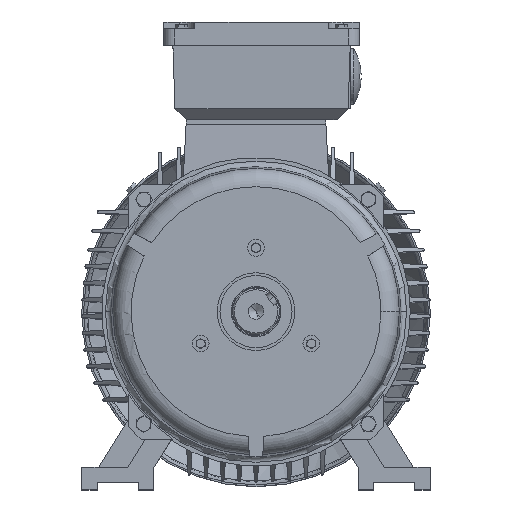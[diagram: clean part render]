
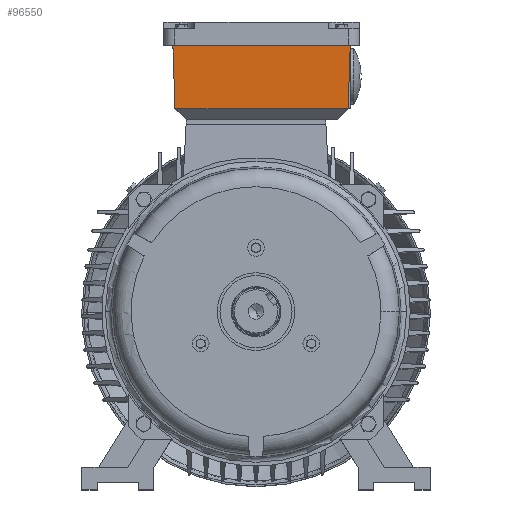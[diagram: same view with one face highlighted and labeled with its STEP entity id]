
A CAD part, top view. The second image highlights one B-rep face of the part: STEP entity #96550.
In plain terms, the highlighted planar face has unit normal (0, -0.033, 1) as drawn and (-0.999, 0, -0.033) by its records, which use the part's own axes.
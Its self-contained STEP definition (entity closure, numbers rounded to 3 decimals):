
#915 = CARTESIAN_POINT ( 'NONE',  ( -72.594, 0., -2.38 ) ) ;
#922 = PLANE ( 'NONE',  #12358 ) ;
#924 = DIRECTION ( 'NONE',  ( -0.999, 0., -0.033 ) ) ;
#925 = DIRECTION ( 'NONE',  ( -0.033, 0., 0.999 ) ) ;
#1542 = ORIENTED_EDGE ( 'NONE', *, *, #90431, .T. ) ;
#1545 = ORIENTED_EDGE ( 'NONE', *, *, #90442, .F. ) ;
#1557 = ORIENTED_EDGE ( 'NONE', *, *, #90472, .T. ) ;
#1559 = ORIENTED_EDGE ( 'NONE', *, *, #90493, .F. ) ;
#3138 = VERTEX_POINT ( 'NONE', #40798 ) ;
#3221 = VERTEX_POINT ( 'NONE', #40657 ) ;
#12358 = AXIS2_PLACEMENT_3D ( 'NONE', #915, #924, #925 ) ;
#14756 = FACE_OUTER_BOUND ( 'NONE', #77059, .T. ) ;
#40657 = CARTESIAN_POINT ( 'NONE',  ( -75., 80., 71. ) ) ;
#40798 = CARTESIAN_POINT ( 'NONE',  ( -73., 78., 10. ) ) ;
#48454 = DIRECTION ( 'NONE',  ( 0.033, -0.033, -0.999 ) ) ;
#48455 = CARTESIAN_POINT ( 'NONE',  ( -75., 80., 71. ) ) ;
#48845 = CARTESIAN_POINT ( 'NONE',  ( -75., 80., 71. ) ) ;
#48846 = DIRECTION ( 'NONE',  ( 0., -1., 0. ) ) ;
#48914 = CARTESIAN_POINT ( 'NONE',  ( -73., 78., 10. ) ) ;
#48915 = DIRECTION ( 'NONE',  ( 0., -1., 0. ) ) ;
#48958 = CARTESIAN_POINT ( 'NONE',  ( -75., -80., 71. ) ) ;
#48959 = DIRECTION ( 'NONE',  ( 0.033, 0.033, -0.999 ) ) ;
#60508 = LINE ( 'NONE', #48455, #60511 ) ;
#60511 = VECTOR ( 'NONE', #48454, 1000. ) ;
#60543 = LINE ( 'NONE', #48845, #60548 ) ;
#60548 = VECTOR ( 'NONE', #48846, 1000. ) ;
#60634 = LINE ( 'NONE', #48914, #60641 ) ;
#60641 = VECTOR ( 'NONE', #48915, 1000. ) ;
#60702 = LINE ( 'NONE', #48958, #60707 ) ;
#60707 = VECTOR ( 'NONE', #48959, 1000. ) ;
#64259 = VERTEX_POINT ( 'NONE', #115268 ) ;
#64733 = VERTEX_POINT ( 'NONE', #115131 ) ;
#77059 = EDGE_LOOP ( 'NONE', ( #1542, #1557, #1559, #1545 ) ) ;
#90431 = EDGE_CURVE ( 'NONE', #3221, #3138, #60508, .T. ) ;
#90442 = EDGE_CURVE ( 'NONE', #3221, #64259, #60543, .T. ) ;
#90472 = EDGE_CURVE ( 'NONE', #3138, #64733, #60634, .T. ) ;
#90493 = EDGE_CURVE ( 'NONE', #64259, #64733, #60702, .T. ) ;
#96550 = ADVANCED_FACE ( 'NONE', ( #14756 ), #922, .T. ) ;
#115131 = CARTESIAN_POINT ( 'NONE',  ( -73., -78., 10. ) ) ;
#115268 = CARTESIAN_POINT ( 'NONE',  ( -75., -80., 71. ) ) ;
